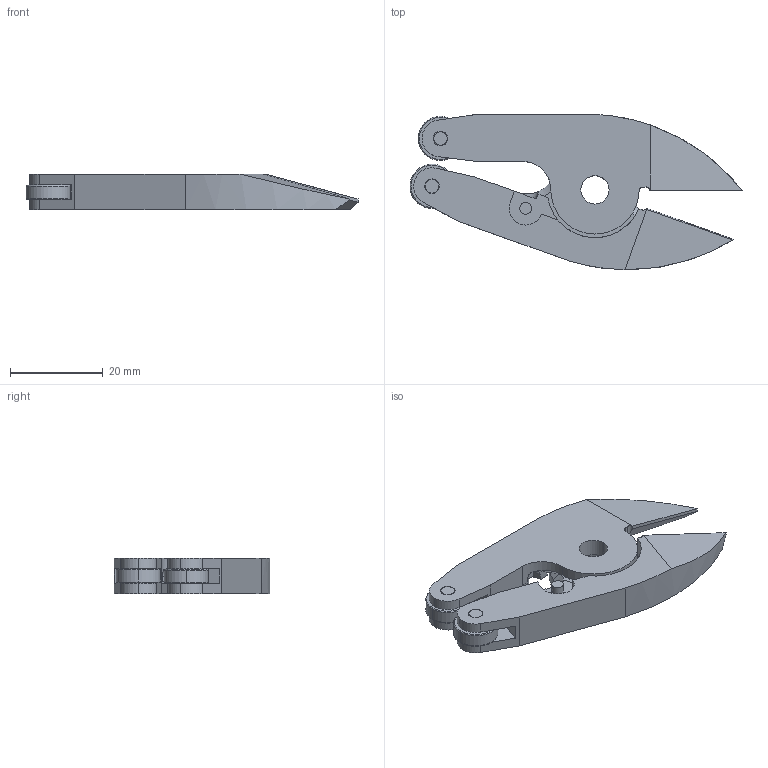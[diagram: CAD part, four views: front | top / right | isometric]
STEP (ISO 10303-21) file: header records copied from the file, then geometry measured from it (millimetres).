
FILE_DESCRIPTION (( 'STEP AP203' ), '1' );
FILE_NAME ('CD-3.STEP', '2010-02-16T21:57:14', ( 'ANDREW' ), ( 'SIMONDS INC' ), 'SwSTEP 2.0', 'SolidWorks 2010', '' );
FILE_SCHEMA (( 'CONFIG_CONTROL_DESIGN' ));
Length unit declared in the file: inch
Products named in the file (5): CD-3 -R; CD-3; CD-4L; 20-01; 19-01-375
Assembly tree (6 placements, depth 2):
  CD-3
    20-01  x2
    CD-4L
    19-01-375  x2
    CD-3 -R
Bounding box: 71.58 x 33.51 x 7.63 mm (x, y, z)
Volume: 9738.9 mm3; surface area: 6743.7 mm2
Topology: 6 solids, 6 shells, 149 faces, 373 edges, 238 vertices
Faces by surface type: plane 60, cylinder 55, torus 24, cone 10
Entity records: 4597 total; most frequent: CARTESIAN_POINT 796, DIRECTION 712, ORIENTED_EDGE 662, EDGE_CURVE 331, AXIS2_PLACEMENT_3D 270, VERTEX_POINT 214, VECTOR 172, LINE 172
